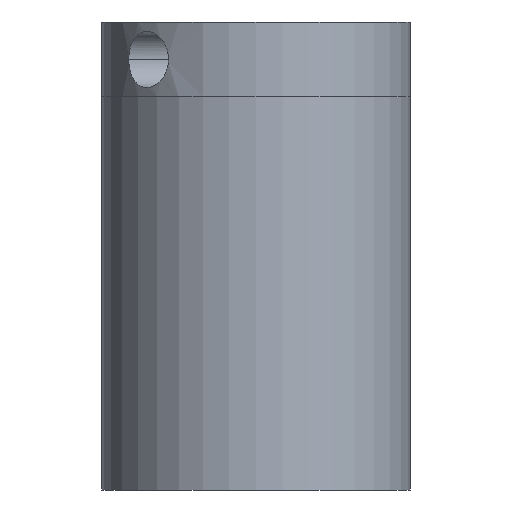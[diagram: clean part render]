
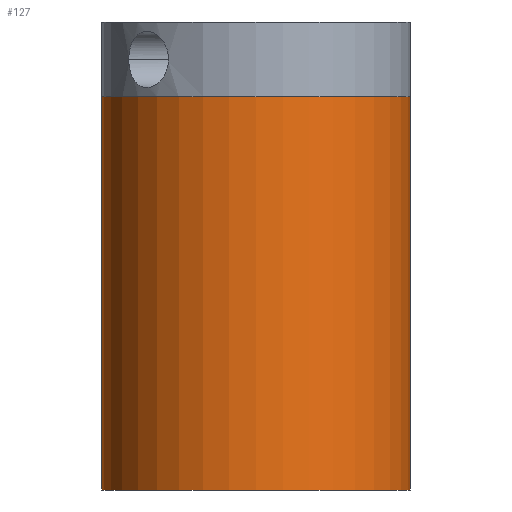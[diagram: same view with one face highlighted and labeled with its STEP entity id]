
A CAD part, front view. The second image highlights one B-rep face of the part: STEP entity #127.
In plain terms, the highlighted cylindrical face has radius 16.5 mm (diameter 33 mm), a partial arc.
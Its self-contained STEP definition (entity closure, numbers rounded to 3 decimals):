
#127=ADVANCED_FACE('',(#161),#147,.T.);
#147=CYLINDRICAL_SURFACE('',#416,16.5);
#161=FACE_OUTER_BOUND('',#173,.T.);
#173=EDGE_LOOP('',(#221,#222,#223,#224));
#201=CIRCLE('',#414,16.5);
#202=CIRCLE('',#415,16.5);
#221=ORIENTED_EDGE('',*,*,#337,.T.);
#222=ORIENTED_EDGE('',*,*,#338,.F.);
#223=ORIENTED_EDGE('',*,*,#339,.F.);
#224=ORIENTED_EDGE('',*,*,#340,.T.);
#309=VERTEX_POINT('',#554);
#310=VERTEX_POINT('',#555);
#311=VERTEX_POINT('',#557);
#312=VERTEX_POINT('',#559);
#337=EDGE_CURVE('',#309,#310,#381,.T.);
#338=EDGE_CURVE('',#311,#310,#201,.T.);
#339=EDGE_CURVE('',#312,#311,#382,.T.);
#340=EDGE_CURVE('',#312,#309,#202,.T.);
#381=LINE('',#553,#397);
#382=LINE('',#558,#398);
#397=VECTOR('',#456,1.);
#398=VECTOR('',#459,1.);
#414=AXIS2_PLACEMENT_3D('',#556,#457,#458);
#415=AXIS2_PLACEMENT_3D('',#560,#460,#461);
#416=AXIS2_PLACEMENT_3D('',#561,#462,#463);
#456=DIRECTION('',(0.,0.,-1.));
#457=DIRECTION('',(0.,0.,-1.));
#458=DIRECTION('',(0.,1.,0.));
#459=DIRECTION('',(0.,0.,-1.));
#460=DIRECTION('',(0.,0.,-1.));
#461=DIRECTION('',(0.,1.,0.));
#462=DIRECTION('',(0.,0.,-1.));
#463=DIRECTION('',(0.,-1.,0.));
#553=CARTESIAN_POINT('',(-16.5,0.,0.));
#554=CARTESIAN_POINT('',(-16.5,0.,42.));
#555=CARTESIAN_POINT('',(-16.5,0.,0.));
#556=CARTESIAN_POINT('',(0.,0.,0.));
#557=CARTESIAN_POINT('',(16.5,0.,0.));
#558=CARTESIAN_POINT('',(16.5,0.,0.));
#559=CARTESIAN_POINT('',(16.5,0.,42.));
#560=CARTESIAN_POINT('',(0.,0.,42.));
#561=CARTESIAN_POINT('',(0.,0.,42.));
